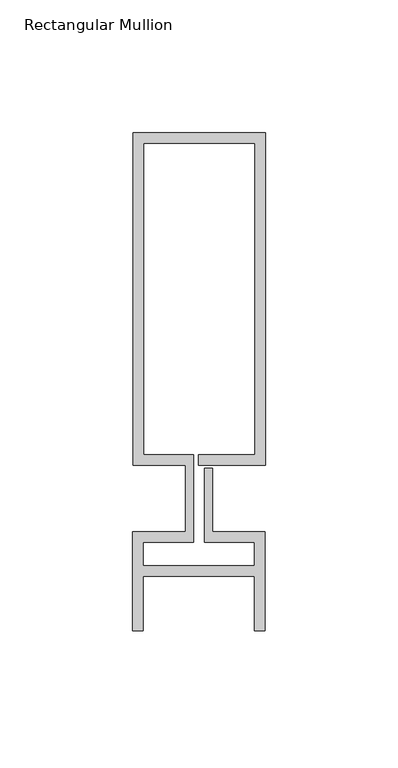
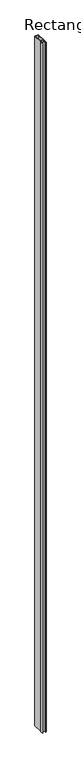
"""IFC4 building model written with IfcOpenShell, lengths in millimetres: member geometry, Rectangular Mullion : Reynaers_CW-50_Mullion-Transom_Vertical_125.5mm_Facecap-03."""

from ifc_helpers import new_model, si_unit, frame, origin, place, context, project, spatial, polyline, outline, extrude, source, transform, mapped, element, save


def rectangular_mullion_42f8672c(model_context):
    return source(origin(), model_context, "Body", "SweptSolid", [
        extrude(outline(polyline([(-24.8004059, 138.0), (25.1995941, 138.0), (25.1995941, 12.5), (0.0, 12.5), (0.0, 16.5), (21.1995941, 16.5), (21.1995941, 134.0), (-20.8004059, 134.0), (-20.8004059, 16.5), (-1.9004059, 16.5), (-1.9004059, -16.5), (-20.994845, -16.5), (-20.994845, -25.3268728), (20.994845, -25.3268728), (20.994845, -16.5), (2.2995941, -16.5), (2.2995941, 11.5), (5.2995941, 11.5), (5.2995941, -12.5), (24.994845, -12.5), (24.994845, -49.8), (20.994845, -49.8), (20.994845, -29.3268728), (-20.994845, -29.3268728), (-20.994845, -49.8), (-24.994845, -49.8), (-24.994845, -12.5), (-4.9004059, -12.5), (-4.9004059, 12.5), (-24.8004059, 12.5), (-24.8004059, 138.0)])), frame((0.0, 0.0, -10400.0), z_axis=(0.0, 0.0, 1.0), x_axis=(1.0, 0.0, 0.0)), (0.0, 0.0, 1.0), 10400.0),
    ])


if __name__ == "__main__":
    model = new_model("IFC4")
    model_context = context("Model", 3, world=origin())
    ifc_project = project(units=[si_unit("LENGTHUNIT", "METRE", prefix="MILLI")], contexts=[model_context])
    site = spatial("IfcSite", under=ifc_project)
    building = spatial("IfcBuilding", under=site)
    placement = place(None, origin())
    rectangular_mullion_shape = rectangular_mullion_42f8672c(model_context)
    element("IfcMember", 1, ObjectType="Rectangular Mullion : Reynaers_CW-50_Mullion-Transom_Vertical_125.5mm_Facecap-03", at=placement, inside=building, context=model_context, shape_type="MappedRepresentation", body=[
        mapped(rectangular_mullion_shape, transform((0.0, 0.0, 0.0), x_axis=(1.0, 0.0, 0.0), y_axis=(0.0, 1.0, 0.0), z_axis=(0.0, 0.0, 1.0))),
    ])
    save(model, "model.ifc")
